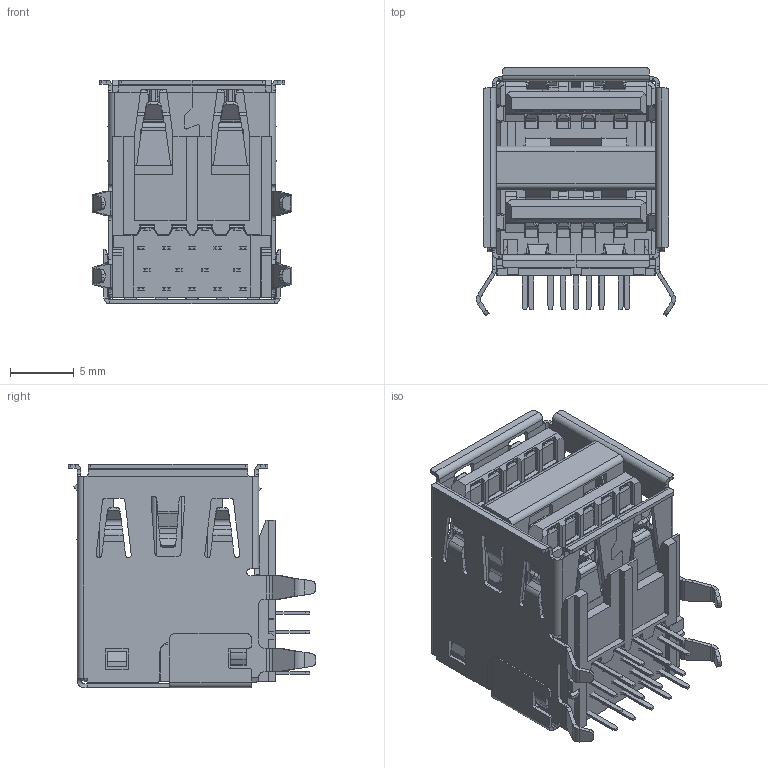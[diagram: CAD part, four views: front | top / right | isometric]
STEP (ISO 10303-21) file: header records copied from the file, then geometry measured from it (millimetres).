
FILE_DESCRIPTION(('FreeCAD Model'),'2;1');
FILE_NAME('Open CASCADE Shape Model','2024-05-10T11:43:42',('Author'),( ''),'Open CASCADE STEP processor 7.6','FreeCAD','Unknown');
FILE_SCHEMA(('AUTOMOTIVE_DESIGN { 1 0 10303 214 1 1 1 1 }'));
Length unit declared in the file: millimetre
Products named in the file (13): UBAF30-D2011 (20240130).stp.STEP; USB30-DOUBLE-SHELL.stp.STEP; USB30-DOUBLE-HOUSING.stp.STEP; LONG-FEMALE-TERMINAL.stp.STEP; LONG-FEMALE-TERMINAL-1.stp.STEP; LONG-FEMALE-TERMINAL-2-3.stp.STEP; SHORT-MALE-TERMINAL.stp.STEP; SHORT-FEMALE-TERMINAL.stp.STEP; USB30-MILDDLE-SHELL.stp.STEP; USB30-HOUSING-COVER.stp.STEP; 5PLONG-2.stp.STEP; LONG-MALE-TERMINAL.stp.STEP; SHORT-FEMALE-TERMINAL-2-3.stp.STEP
Assembly tree (22 placements, depth 2):
  UBAF30-D2011 (20240130).stp.STEP
    USB30-DOUBLE-SHELL.stp.STEP
    USB30-DOUBLE-HOUSING.stp.STEP
    LONG-FEMALE-TERMINAL.stp.STEP
    LONG-FEMALE-TERMINAL-1.stp.STEP
    LONG-FEMALE-TERMINAL-2-3.stp.STEP  x2
    SHORT-MALE-TERMINAL.stp.STEP  x5
    SHORT-FEMALE-TERMINAL.stp.STEP  x2
    USB30-MILDDLE-SHELL.stp.STEP
    USB30-HOUSING-COVER.stp.STEP
    5PLONG-2.stp.STEP  x4
    LONG-MALE-TERMINAL.stp.STEP
    SHORT-FEMALE-TERMINAL-2-3.stp.STEP  x2
Bounding box: 15.6 x 19.4 x 17.5 mm (x, y, z)
Volume: 1709.2 mm3; surface area: 7452.5 mm2
Topology: 22 solids, 22 shells, 3735 faces, 9820 edges, 6061 vertices
Faces by surface type: plane 2966, cylinder 645, bspline 122, cone 2
Entity records: 96141 total; most frequent: CARTESIAN_POINT 21406, ORIENTED_EDGE 16090, DIRECTION 14371, EDGE_CURVE 8045, LINE 6795, VECTOR 6795, VERTEX_POINT 4989, AXIS2_PLACEMENT_3D 3788
